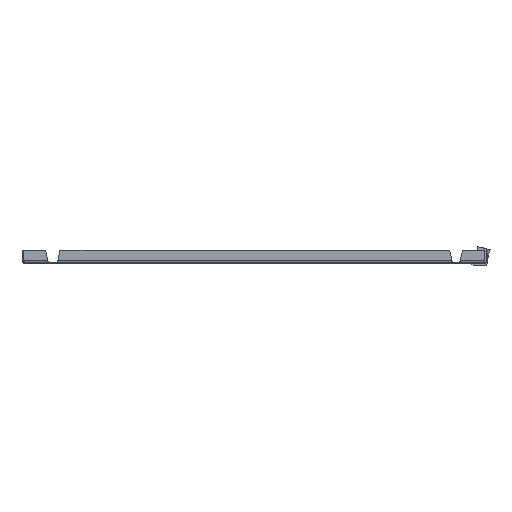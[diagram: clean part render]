
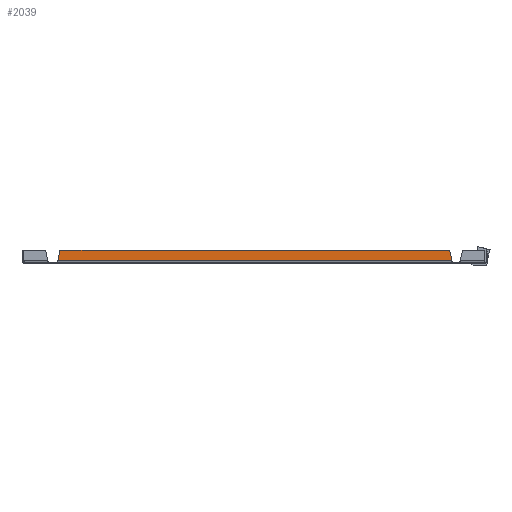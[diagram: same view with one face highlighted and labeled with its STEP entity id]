
A CAD part, left-side view. The second image highlights one B-rep face of the part: STEP entity #2039.
In plain terms, the highlighted planar face has unit normal (-1, 0, 0).
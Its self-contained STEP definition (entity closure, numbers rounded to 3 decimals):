
#77 = VERTEX_POINT ( 'NONE', #1958 ) ;
#492 = CARTESIAN_POINT ( 'NONE',  ( -496., 245.5, 15. ) ) ;
#590 = PLANE ( 'NONE',  #2054 ) ;
#626 = CARTESIAN_POINT ( 'NONE',  ( -496., 0., 0. ) ) ;
#933 = DIRECTION ( 'NONE',  ( 0., -1., 0. ) ) ;
#1036 = LINE ( 'NONE', #4115, #3069 ) ;
#1180 = ORIENTED_EDGE ( 'NONE', *, *, #4958, .F. ) ;
#1335 = FACE_OUTER_BOUND ( 'NONE', #3881, .T. ) ;
#1458 = VECTOR ( 'NONE', #2907, 1000. ) ;
#1817 = CARTESIAN_POINT ( 'NONE',  ( -496., -289.5, 15. ) ) ;
#1955 = ORIENTED_EDGE ( 'NONE', *, *, #4576, .F. ) ;
#1958 = CARTESIAN_POINT ( 'NONE',  ( -496., 248.176, 2. ) ) ;
#1988 = DIRECTION ( 'NONE',  ( -1., 0., 0. ) ) ;
#2039 = ADVANCED_FACE ( 'NONE', ( #1335 ), #590, .T. ) ;
#2054 = AXIS2_PLACEMENT_3D ( 'NONE', #626, #1988, #4136 ) ;
#2221 = VERTEX_POINT ( 'NONE', #4848 ) ;
#2236 = LINE ( 'NONE', #3111, #5353 ) ;
#2849 = CARTESIAN_POINT ( 'NONE',  ( -496., -247.5, 15. ) ) ;
#2883 = CARTESIAN_POINT ( 'NONE',  ( -496., -250.176, 2. ) ) ;
#2907 = DIRECTION ( 'NONE',  ( 0., 0.202, 0.979 ) ) ;
#3069 = VECTOR ( 'NONE', #3715, 1000. ) ;
#3089 = EDGE_CURVE ( 'NONE', #3673, #2221, #3633, .T. ) ;
#3111 = CARTESIAN_POINT ( 'NONE',  ( -496., 0., 2. ) ) ;
#3422 = VERTEX_POINT ( 'NONE', #492 ) ;
#3570 = ORIENTED_EDGE ( 'NONE', *, *, #3994, .T. ) ;
#3633 = LINE ( 'NONE', #2849, #1458 ) ;
#3673 = VERTEX_POINT ( 'NONE', #2883 ) ;
#3715 = DIRECTION ( 'NONE',  ( 0., -0.202, 0.979 ) ) ;
#3823 = VECTOR ( 'NONE', #5301, 1000. ) ;
#3881 = EDGE_LOOP ( 'NONE', ( #1955, #1180, #3570, #4402 ) ) ;
#3994 = EDGE_CURVE ( 'NONE', #77, #3673, #2236, .T. ) ;
#4115 = CARTESIAN_POINT ( 'NONE',  ( -496., 249., -2. ) ) ;
#4136 = DIRECTION ( 'NONE',  ( 0., -1., 0. ) ) ;
#4402 = ORIENTED_EDGE ( 'NONE', *, *, #3089, .T. ) ;
#4576 = EDGE_CURVE ( 'NONE', #3422, #2221, #4595, .T. ) ;
#4595 = LINE ( 'NONE', #1817, #3823 ) ;
#4848 = CARTESIAN_POINT ( 'NONE',  ( -496., -247.5, 15. ) ) ;
#4958 = EDGE_CURVE ( 'NONE', #77, #3422, #1036, .T. ) ;
#5301 = DIRECTION ( 'NONE',  ( 0., -1., 0. ) ) ;
#5353 = VECTOR ( 'NONE', #933, 1000. ) ;
